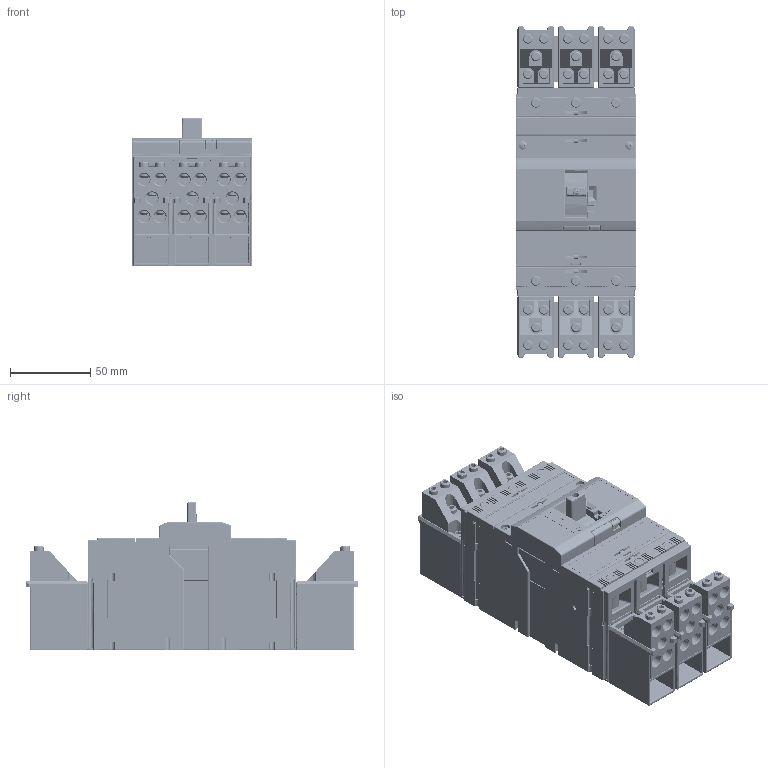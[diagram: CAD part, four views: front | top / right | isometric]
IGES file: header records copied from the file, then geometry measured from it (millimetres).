
Start section: SolidWorks IGES file using analytic representation for surfaces
Global section: file name: U:\14_RD\05_Technical_office\04_Office\Hrdinova\3D modely - IGES\Modeion\BC160NT305__CS-BC-B014.IGS; native system: SolidWorks 2011; preprocessor: SolidWorks 2011; author: adhrja3; date: 170615.121929; units: millimetre
Bounding box: 75 x 207 x 92.5 mm (x, y, z)
Surface area: 223150.7 mm2 (no closed solid volume)
Topology: 0 solids, 0 shells, 5596 faces, 51238 edges, 51189 vertices
Faces by surface type: bspline 3617, revolution 1979
